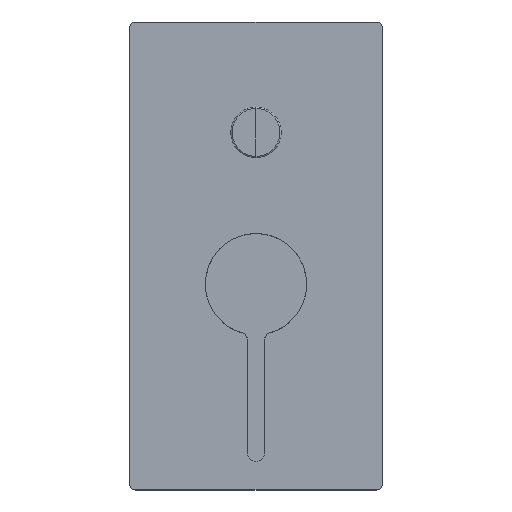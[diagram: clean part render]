
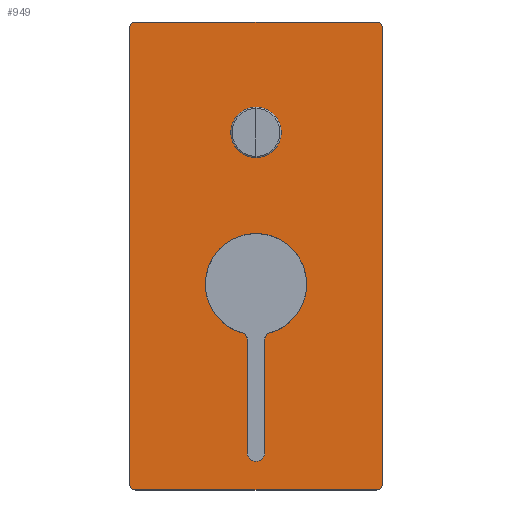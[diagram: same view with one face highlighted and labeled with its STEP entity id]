
A CAD part, top view. The second image highlights one B-rep face of the part: STEP entity #949.
In plain terms, the highlighted planar face has unit normal (0, 0, 1).
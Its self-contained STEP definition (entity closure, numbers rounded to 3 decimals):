
#949 = ADVANCED_FACE('',(#950),#1020,.T.);
#950 = FACE_BOUND('',#951,.T.);
#951 = EDGE_LOOP('',(#952,#963,#971,#980,#988,#997,#1005,#1014));
#952 = ORIENTED_EDGE('',*,*,#953,.T.);
#953 = EDGE_CURVE('',#954,#956,#958,.T.);
#954 = VERTEX_POINT('',#955);
#955 = CARTESIAN_POINT('',(-47.5,128.719,5.
    ));
#956 = VERTEX_POINT('',#957);
#957 = CARTESIAN_POINT('',(-50.,126.219,5.
    ));
#958 = CIRCLE('',#959,2.5);
#959 = AXIS2_PLACEMENT_3D('',#960,#961,#962);
#960 = CARTESIAN_POINT('',(-47.5,126.219,5.
    ));
#961 = DIRECTION('',(0.,0.,1.));
#962 = DIRECTION('',(1.,0.,-0.));
#963 = ORIENTED_EDGE('',*,*,#964,.T.);
#964 = EDGE_CURVE('',#956,#965,#967,.T.);
#965 = VERTEX_POINT('',#966);
#966 = CARTESIAN_POINT('',(-50.,-53.781,5.
    ));
#967 = LINE('',#968,#969);
#968 = CARTESIAN_POINT('',(-50.,126.219,5.
    ));
#969 = VECTOR('',#970,1.);
#970 = DIRECTION('',(0.,-1.,0.));
#971 = ORIENTED_EDGE('',*,*,#972,.T.);
#972 = EDGE_CURVE('',#965,#973,#975,.T.);
#973 = VERTEX_POINT('',#974);
#974 = CARTESIAN_POINT('',(-47.5,-56.281,5.
    ));
#975 = CIRCLE('',#976,2.5);
#976 = AXIS2_PLACEMENT_3D('',#977,#978,#979);
#977 = CARTESIAN_POINT('',(-47.5,-53.781,5.
    ));
#978 = DIRECTION('',(0.,0.,1.));
#979 = DIRECTION('',(1.,0.,-0.));
#980 = ORIENTED_EDGE('',*,*,#981,.T.);
#981 = EDGE_CURVE('',#973,#982,#984,.T.);
#982 = VERTEX_POINT('',#983);
#983 = CARTESIAN_POINT('',(47.5,-56.281,5.
    ));
#984 = LINE('',#985,#986);
#985 = CARTESIAN_POINT('',(-47.5,-56.281,5.
    ));
#986 = VECTOR('',#987,1.);
#987 = DIRECTION('',(1.,0.,0.));
#988 = ORIENTED_EDGE('',*,*,#989,.T.);
#989 = EDGE_CURVE('',#982,#990,#992,.T.);
#990 = VERTEX_POINT('',#991);
#991 = CARTESIAN_POINT('',(50.,-53.781,5.
    ));
#992 = CIRCLE('',#993,2.5);
#993 = AXIS2_PLACEMENT_3D('',#994,#995,#996);
#994 = CARTESIAN_POINT('',(47.5,-53.781,5.
    ));
#995 = DIRECTION('',(0.,0.,1.));
#996 = DIRECTION('',(1.,0.,-0.));
#997 = ORIENTED_EDGE('',*,*,#998,.T.);
#998 = EDGE_CURVE('',#990,#999,#1001,.T.);
#999 = VERTEX_POINT('',#1000);
#1000 = CARTESIAN_POINT('',(50.,126.219,
    5.));
#1001 = LINE('',#1002,#1003);
#1002 = CARTESIAN_POINT('',(50.,-53.781,
    5.));
#1003 = VECTOR('',#1004,1.);
#1004 = DIRECTION('',(0.,1.,0.));
#1005 = ORIENTED_EDGE('',*,*,#1006,.T.);
#1006 = EDGE_CURVE('',#999,#1007,#1009,.T.);
#1007 = VERTEX_POINT('',#1008);
#1008 = CARTESIAN_POINT('',(47.5,128.719,
    5.));
#1009 = CIRCLE('',#1010,2.5);
#1010 = AXIS2_PLACEMENT_3D('',#1011,#1012,#1013);
#1011 = CARTESIAN_POINT('',(47.5,126.219,
    5.));
#1012 = DIRECTION('',(0.,0.,1.));
#1013 = DIRECTION('',(1.,0.,-0.));
#1014 = ORIENTED_EDGE('',*,*,#1015,.T.);
#1015 = EDGE_CURVE('',#1007,#954,#1016,.T.);
#1016 = LINE('',#1017,#1018);
#1017 = CARTESIAN_POINT('',(47.5,128.719,
    5.));
#1018 = VECTOR('',#1019,1.);
#1019 = DIRECTION('',(-1.,0.,0.));
#1020 = PLANE('',#1021);
#1021 = AXIS2_PLACEMENT_3D('',#1022,#1023,#1024);
#1022 = CARTESIAN_POINT('',(-45.,126.219,
    5.));
#1023 = DIRECTION('',(0.,0.,1.));
#1024 = DIRECTION('',(0.,1.,0.));
